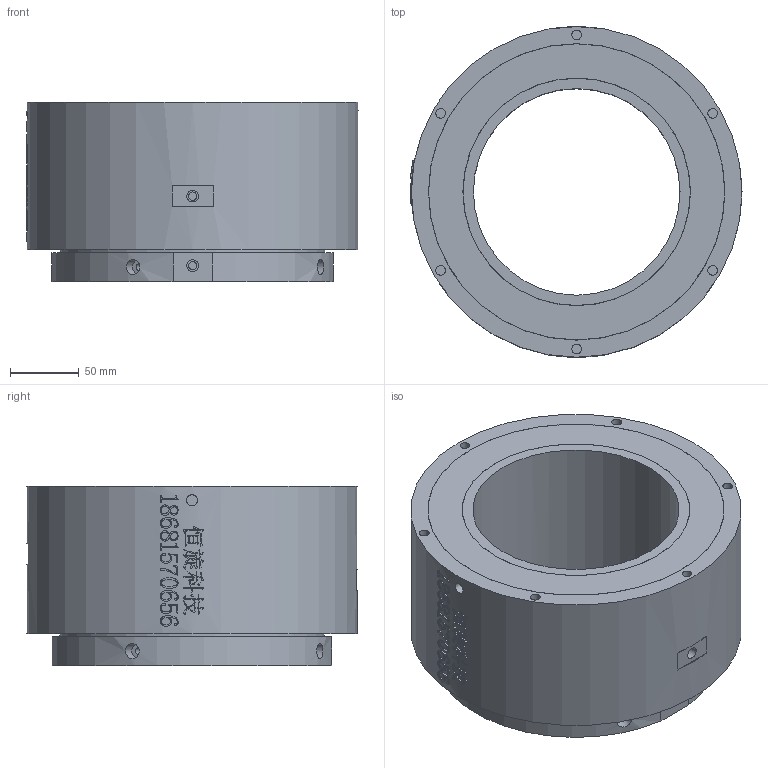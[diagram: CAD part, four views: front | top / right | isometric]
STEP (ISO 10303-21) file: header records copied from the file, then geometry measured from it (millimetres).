
FILE_DESCRIPTION(/* description */ (''),/* implementation_level */ '2;1');
FILE_NAME(/* name */ 'HQ0201D150模型.stp',/* time_stamp */ '2024-08-02T09:04:21+08:00',/* author */ (''),/* organization */ (''),/* preprocessor_version */ 'ST-DEVELOPER v16.7',/* originating_system */ 'SIEMENS PLM Software NX 12.0',/* authorisation */ '');
FILE_SCHEMA (('AUTOMOTIVE_DESIGN { 1 0 10303 214 3 1 1 1 }'));
Length unit declared in the file: millimetre
Products named in the file (1): HX050B1CB0C4ke7t
Bounding box: 241 x 240 x 130 mm (x, y, z)
Volume: 3277300.4 mm3; surface area: 239241.5 mm2
Topology: 1 solids, 1 shells, 388 faces, 941 edges, 627 vertices
Faces by surface type: plane 232, extrusion 78, cylinder 52, bspline 26
Full cylindrical faces by diameter (mm): 5 x4, 6 x4, 7 x12, 7.2 x2, 8 x2, 8.5 x4, 11 x4, 150 x1, 165 x1, 165.2 x1, 192 x1, 215 x1, 215.2 x1, 240 x1
Entity records: 22471 total; most frequent: CARTESIAN_POINT 14458, ORIENTED_EDGE 1786, DIRECTION 1192, EDGE_CURVE 893, B_SPLINE_CURVE_WITH_KNOTS 635, VERTEX_POINT 626, EDGE_LOOP 517, AXIS2_PLACEMENT_3D 493
